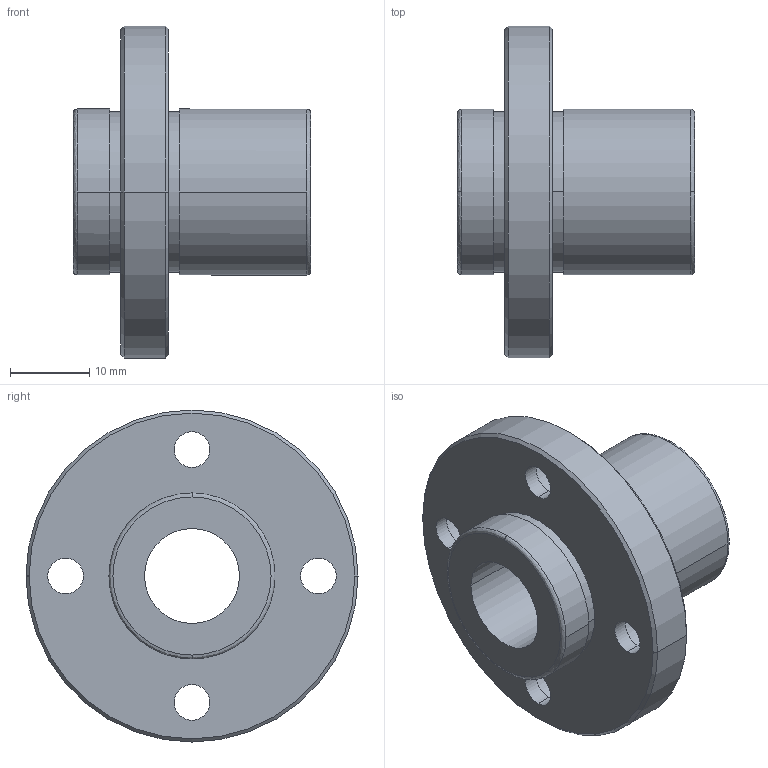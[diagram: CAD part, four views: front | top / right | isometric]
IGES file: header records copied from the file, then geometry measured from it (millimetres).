
Start section: 3D InterOp IGES (Version 21 0 1), Spatial Corp. Copyright (c) 1999-2007.
Global section: file name: NFID-12VUU.igs; native system: Spatial Corp.; preprocessor: 3D InterOp GENERIC/IGES 3.0; author: Noname; organization: Noname; date: 20220308.111924; units: millimetre
Bounding box: 30 x 42 x 42 mm (x, y, z)
Surface area: 6411.2 mm2 (no closed solid volume)
Topology: 0 solids, 0 shells, 46 faces, 208 edges, 208 vertices
Faces by surface type: revolution 36, extrusion 10
